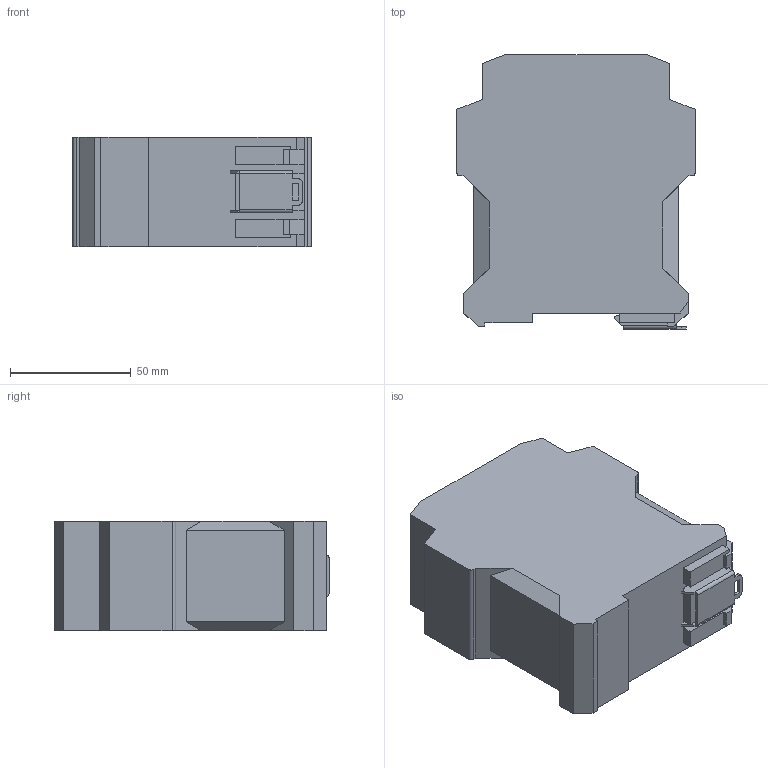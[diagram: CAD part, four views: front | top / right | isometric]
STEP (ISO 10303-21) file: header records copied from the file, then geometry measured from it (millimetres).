
FILE_DESCRIPTION (( 'STEP AP214' ), '1' );
FILE_NAME ('ZF_STEP_CS_fC_mM-X.step', '2021-02-15T12:59:16', ( '' ), ( '' ), 'SwSTEP 2.0', 'SolidWorks 2014', '' );
FILE_SCHEMA (( 'AUTOMOTIVE_DESIGN' ));
Length unit declared in the file: millimetre
Products named in the file (3): CS_morsetti_M_45; DIN; ZF_STEP_CS_fC_mM-X
Assembly tree (2 placements, depth 2):
  ZF_STEP_CS_fC_mM-X
    CS_morsetti_M_45
    DIN
Bounding box: 99 x 113.7 x 45.6 mm (x, y, z)
Volume: 437547.9 mm3; surface area: 39909.4 mm2
Topology: 2 solids, 2 shells, 92 faces, 258 edges, 170 vertices
Faces by surface type: plane 86, cylinder 6
Entity records: 3053 total; most frequent: CARTESIAN_POINT 525, ORIENTED_EDGE 516, DIRECTION 464, EDGE_CURVE 258, LINE 246, VECTOR 246, VERTEX_POINT 170, AXIS2_PLACEMENT_3D 109
